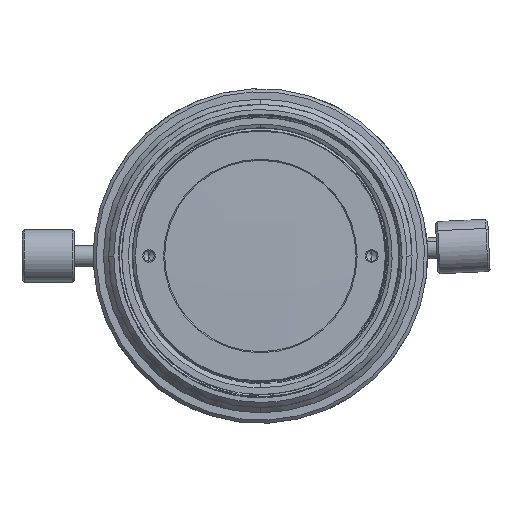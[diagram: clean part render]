
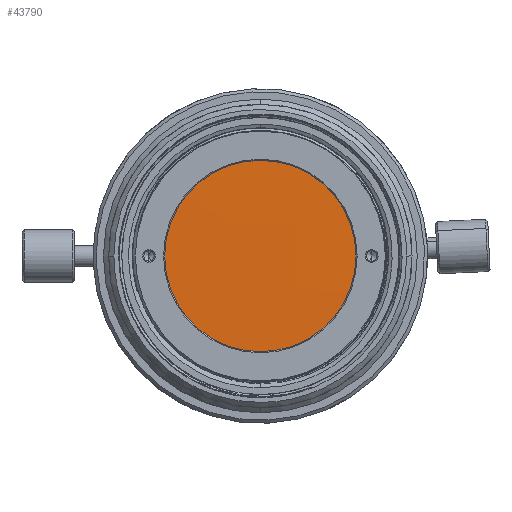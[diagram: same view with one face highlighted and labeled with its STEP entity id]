
A CAD part, left-side view. The second image highlights one B-rep face of the part: STEP entity #43790.
In plain terms, the highlighted free-form (B-spline) face has degree [3, 3] with [4, 4] control points.
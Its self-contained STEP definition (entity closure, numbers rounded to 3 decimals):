
#825 = ORIENTED_EDGE ( 'NONE', *, *, #63617, .T. ) ;
#1088 = EDGE_CURVE ( 'NONE', #14292, #78938, #4749, .T. ) ;
#2339 = CARTESIAN_POINT ( 'NONE',  ( 0.395, 9.998, -9.92 ) ) ;
#2394 = DIRECTION ( 'NONE',  ( -1., 0., 0. ) ) ;
#2611 = CARTESIAN_POINT ( 'NONE',  ( 0.135, 3.347, -3.288 ) ) ;
#4749 = CIRCLE ( 'NONE', #48488, 9.804 ) ;
#4790 = CARTESIAN_POINT ( 'NONE',  ( 0.294, 0., 9.804 ) ) ;
#8369 = CIRCLE ( 'NONE', #67560, 9.804 ) ;
#8953 = CARTESIAN_POINT ( 'NONE',  ( 0.265, 3.347, 9.982 ) ) ;
#9159 =( BOUNDED_SURFACE ( )  B_SPLINE_SURFACE ( 3, 3, ( 
 ( #2339, #15017, #33916, #77304 ),
 ( #40178, #2611, #46424, #8953 ),
 ( #52671, #15287, #58902, #21563 ),
 ( #65060, #27866, #71306, #34178 ) ),
 .UNSPECIFIED., .F., .F., .F. ) 
 B_SPLINE_SURFACE_WITH_KNOTS ( ( 4, 4 ),
 ( 4, 4 ),
 ( 0., 1. ),
 ( 0., 1. ),
 .UNSPECIFIED. ) 
 GEOMETRIC_REPRESENTATION_ITEM ( )  RATIONAL_B_SPLINE_SURFACE ( (
 ( 1., 1., 1., 1.),
 ( 1., 1., 1., 1.),
 ( 1., 1., 1., 1.),
 ( 1., 1., 1., 1.) ) ) 
 REPRESENTATION_ITEM ( '' )  SURFACE ( )  );
#14292 = VERTEX_POINT ( 'NONE', #17988 ) ;
#15017 = CARTESIAN_POINT ( 'NONE',  ( 0.265, 9.998, -3.287 ) ) ;
#15287 = CARTESIAN_POINT ( 'NONE',  ( 0.135, -3.305, -3.288 ) ) ;
#17988 = CARTESIAN_POINT ( 'NONE',  ( 0.294, 0., -9.804 ) ) ;
#21563 = CARTESIAN_POINT ( 'NONE',  ( 0.265, -3.305, 9.982 ) ) ;
#21609 = DIRECTION ( 'NONE',  ( -1., 0., 0. ) ) ;
#27866 = CARTESIAN_POINT ( 'NONE',  ( 0.265, -9.956, -3.287 ) ) ;
#33916 = CARTESIAN_POINT ( 'NONE',  ( 0.266, 9.998, 3.346 ) ) ;
#34178 = CARTESIAN_POINT ( 'NONE',  ( 0.395, -9.956, 9.979 ) ) ;
#39972 = CARTESIAN_POINT ( 'NONE',  ( 0.294, 0., 0. ) ) ;
#40178 = CARTESIAN_POINT ( 'NONE',  ( 0.264, 3.347, -9.922 ) ) ;
#43790 = ADVANCED_FACE ( 'NONE', ( #60985 ), #9159, .T. ) ;
#45373 = ORIENTED_EDGE ( 'NONE', *, *, #1088, .T. ) ;
#46204 = DIRECTION ( 'NONE',  ( 0., 0., -1. ) ) ;
#46424 = CARTESIAN_POINT ( 'NONE',  ( 0.135, 3.347, 3.347 ) ) ;
#48488 = AXIS2_PLACEMENT_3D ( 'NONE', #72429, #21609, #65099 ) ;
#52671 = CARTESIAN_POINT ( 'NONE',  ( 0.264, -3.305, -9.922 ) ) ;
#58902 = CARTESIAN_POINT ( 'NONE',  ( 0.135, -3.305, 3.347 ) ) ;
#60985 = FACE_OUTER_BOUND ( 'NONE', #63804, .T. ) ;
#63617 = EDGE_CURVE ( 'NONE', #78938, #14292, #8369, .T. ) ;
#63804 = EDGE_LOOP ( 'NONE', ( #45373, #825 ) ) ;
#65060 = CARTESIAN_POINT ( 'NONE',  ( 0.394, -9.956, -9.92 ) ) ;
#65099 = DIRECTION ( 'NONE',  ( 0., 0., -1. ) ) ;
#67560 = AXIS2_PLACEMENT_3D ( 'NONE', #39972, #2394, #46204 ) ;
#71306 = CARTESIAN_POINT ( 'NONE',  ( 0.265, -9.956, 3.346 ) ) ;
#72429 = CARTESIAN_POINT ( 'NONE',  ( 0.294, 0., 0. ) ) ;
#77304 = CARTESIAN_POINT ( 'NONE',  ( 0.396, 9.998, 9.979 ) ) ;
#78938 = VERTEX_POINT ( 'NONE', #4790 ) ;
